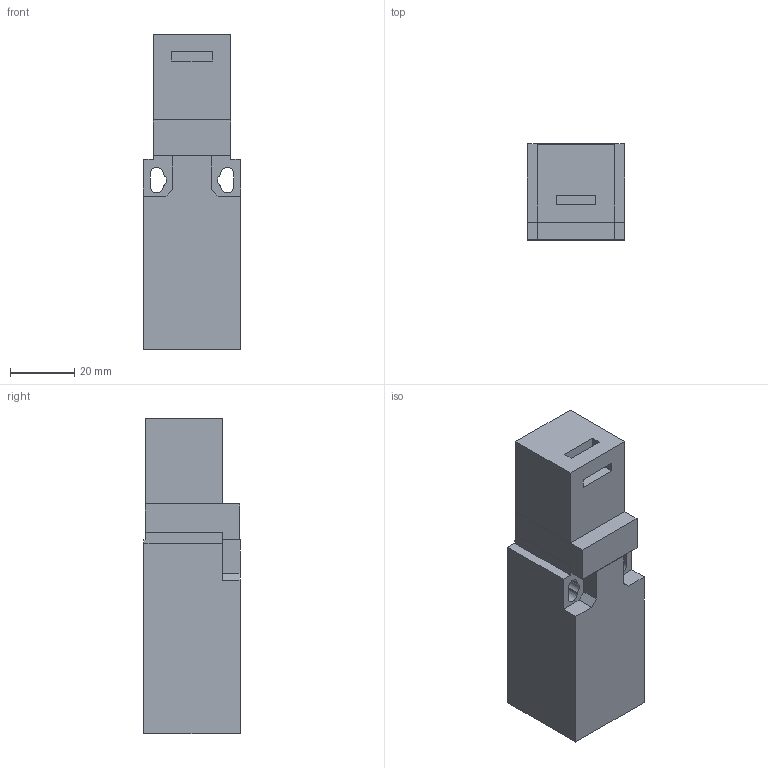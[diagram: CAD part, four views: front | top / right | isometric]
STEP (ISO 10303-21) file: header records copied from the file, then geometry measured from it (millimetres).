
FILE_DESCRIPTION((''),'2;1');
FILE_NAME('C:\Workarea\Disegni\Comepi\Catalogo\Stp\Finecorsa\SP1-K120.iam.step','2011-10-05T16:29:47',(''),(''),'Autodesk Inventor 2012','Autodesk Inventor 2012','');
FILE_SCHEMA(('AUTOMOTIVE_DESIGN { 1 0 10303 214 1 1 1 1 }'));
Length unit declared in the file: millimetre
Products named in the file (5): SP1-K120; SP1; K120; K120_1; K120_2
Assembly tree (4 placements, depth 3):
  SP1-K120
    SP1
    K120
      K120_1
      K120_2
Bounding box: 30.3 x 30 x 98.6 mm (x, y, z)
Volume: 70465.8 mm3; surface area: 17854 mm2
Topology: 3 solids, 3 shells, 62 faces, 159 edges, 106 vertices
Faces by surface type: plane 55, cylinder 7
Full cylindrical faces by diameter (mm): 20.4 x1
Entity records: 2009 total; most frequent: CARTESIAN_POINT 335, ORIENTED_EDGE 316, DIRECTION 314, EDGE_CURVE 158, VECTOR 144, LINE 144, VERTEX_POINT 106, AXIS2_PLACEMENT_3D 85
